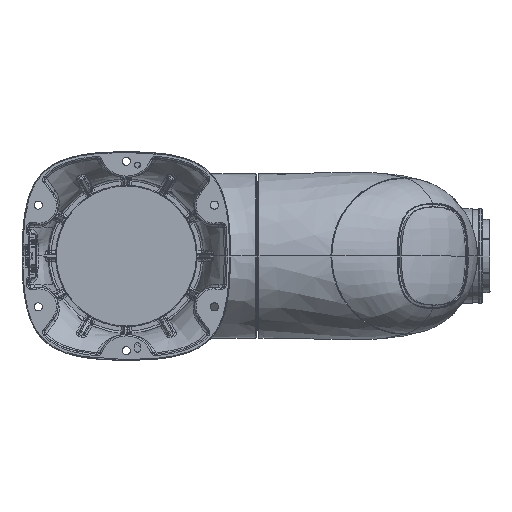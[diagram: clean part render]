
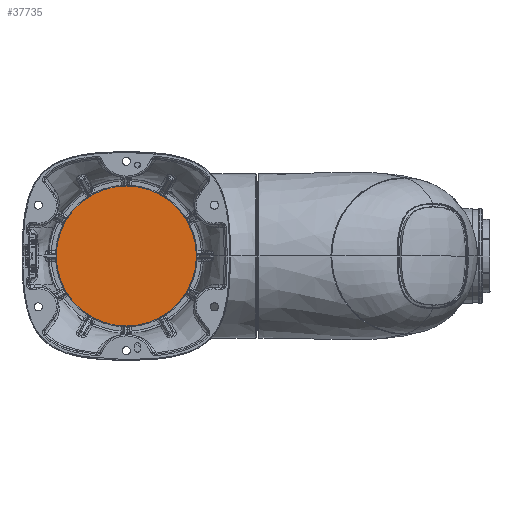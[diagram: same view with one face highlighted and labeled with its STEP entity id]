
A CAD part, front view. The second image highlights one B-rep face of the part: STEP entity #37735.
In plain terms, the highlighted planar face has unit normal (0, -1, 0).
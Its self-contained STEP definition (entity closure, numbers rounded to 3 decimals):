
#9522=CARTESIAN_POINT('',(0.,60.,0.));
#9523=DIRECTION('',(0.,-1.,0.));
#9524=DIRECTION('',(1.,0.,0.));
#9525=AXIS2_PLACEMENT_3D('',#9522,#9523,#9524);
#9527=CARTESIAN_POINT('',(0.,60.,0.));
#9528=DIRECTION('',(0.,-1.,0.));
#9529=DIRECTION('',(-1.,0.,0.));
#9530=AXIS2_PLACEMENT_3D('',#9527,#9528,#9529);
#21667=CARTESIAN_POINT('',(94.,60.,0.));
#21668=CARTESIAN_POINT('',(-94.,60.,0.));
#21669=VERTEX_POINT('',#21667);
#21670=VERTEX_POINT('',#21668);
#37726=CARTESIAN_POINT('',(0.,60.,0.));
#37727=DIRECTION('',(0.,1.,0.));
#37728=DIRECTION('',(0.5,0.,0.866));
#37729=AXIS2_PLACEMENT_3D('',#37726,#37727,#37728);
#37730=PLANE('',#37729);
#37731=ORIENTED_EDGE('',*,*,#37539,.F.);
#37732=ORIENTED_EDGE('',*,*,#37640,.F.);
#37733=EDGE_LOOP('',(#37731,#37732));
#37734=FACE_OUTER_BOUND('',#37733,.F.);
#37735=ADVANCED_FACE('',(#37734),#37730,.F.);
#9526=CIRCLE('',#9525,94.);
#9531=CIRCLE('',#9530,94.);
#37539=EDGE_CURVE('',#21669,#21670,#9526,.T.);
#37640=EDGE_CURVE('',#21670,#21669,#9531,.T.);
